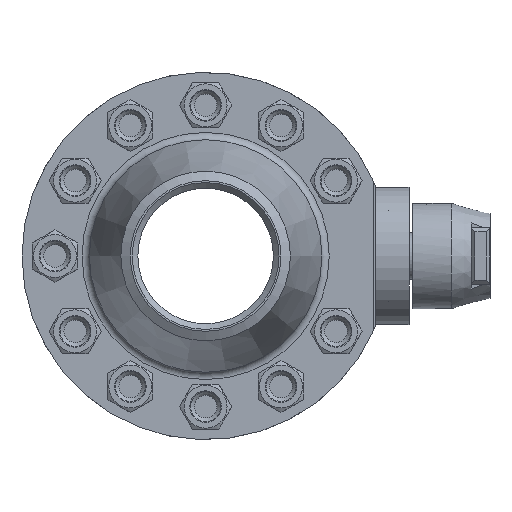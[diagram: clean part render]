
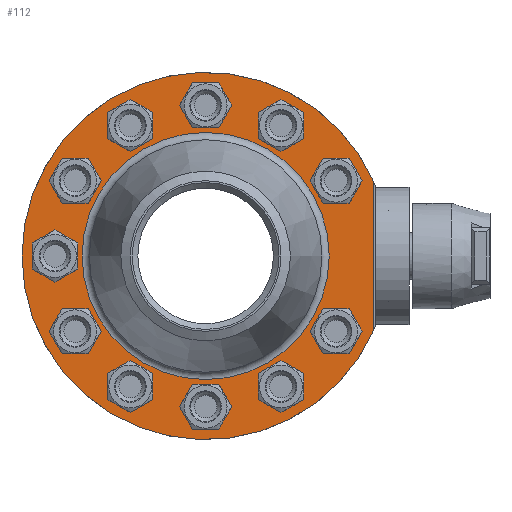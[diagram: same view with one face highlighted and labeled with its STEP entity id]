
A CAD part, left-side view. The second image highlights one B-rep face of the part: STEP entity #112.
In plain terms, the highlighted planar face has unit normal (-1, 0, 0).
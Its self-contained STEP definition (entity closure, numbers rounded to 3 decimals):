
#112=ADVANCED_FACE('',(#2488,#2490,#2492,#2494,#2496,#2498,#2500,#2502,#2504,#2506,
#2508,#2510,#2512),#2514,.T.);
#2488=FACE_BOUND('',#2489,.T.);
#2489=EDGE_LOOP('',(#6268));
#2490=FACE_BOUND('',#2491,.T.);
#2491=EDGE_LOOP('',(#6269));
#2492=FACE_BOUND('',#2493,.T.);
#2493=EDGE_LOOP('',(#6270));
#2494=FACE_BOUND('',#2495,.T.);
#2495=EDGE_LOOP('',(#6271));
#2496=FACE_BOUND('',#2497,.T.);
#2497=EDGE_LOOP('',(#6272));
#2498=FACE_BOUND('',#2499,.T.);
#2499=EDGE_LOOP('',(#6273));
#2500=FACE_BOUND('',#2501,.T.);
#2501=EDGE_LOOP('',(#6274));
#2502=FACE_BOUND('',#2503,.T.);
#2503=EDGE_LOOP('',(#6275));
#2504=FACE_BOUND('',#2505,.T.);
#2505=EDGE_LOOP('',(#6276));
#2506=FACE_BOUND('',#2507,.T.);
#2507=EDGE_LOOP('',(#6277));
#2508=FACE_BOUND('',#2509,.T.);
#2509=EDGE_LOOP('',(#6278));
#2510=FACE_BOUND('',#2511,.T.);
#2511=EDGE_LOOP('',(#6279));
#2512=FACE_OUTER_BOUND('',#2513,.T.);
#2513=EDGE_LOOP('',(#6280,#6281));
#2514=PLANE('',#2515);
#2515=AXIS2_PLACEMENT_3D('',#2516,#2517,#2518);
#2516=CARTESIAN_POINT('',(-57.5,0.,0.));
#2517=DIRECTION('',(-1.,-0.,-0.));
#2518=DIRECTION('',(0.,1.,0.));
#6268=ORIENTED_EDGE('',*,*,#9393,.F.);
#6269=ORIENTED_EDGE('',*,*,#9394,.F.);
#6270=ORIENTED_EDGE('',*,*,#9395,.F.);
#6271=ORIENTED_EDGE('',*,*,#9396,.F.);
#6272=ORIENTED_EDGE('',*,*,#9397,.F.);
#6273=ORIENTED_EDGE('',*,*,#9398,.T.);
#6274=ORIENTED_EDGE('',*,*,#9399,.F.);
#6275=ORIENTED_EDGE('',*,*,#9400,.F.);
#6276=ORIENTED_EDGE('',*,*,#9401,.F.);
#6277=ORIENTED_EDGE('',*,*,#9402,.F.);
#6278=ORIENTED_EDGE('',*,*,#9403,.F.);
#6279=ORIENTED_EDGE('',*,*,#9404,.F.);
#6280=ORIENTED_EDGE('',*,*,#9405,.T.);
#6281=ORIENTED_EDGE('',*,*,#9406,.F.);
#9393=EDGE_CURVE('',#10445,#10445,#10446,.T.);
#9394=EDGE_CURVE('',#10447,#10447,#10448,.T.);
#9395=EDGE_CURVE('',#10449,#10449,#10450,.T.);
#9396=EDGE_CURVE('',#10451,#10451,#10452,.T.);
#9397=EDGE_CURVE('',#10453,#10453,#10454,.T.);
#9398=EDGE_CURVE('',#10455,#10455,#10456,.T.);
#9399=EDGE_CURVE('',#10457,#10457,#10458,.T.);
#9400=EDGE_CURVE('',#10459,#10459,#10460,.T.);
#9401=EDGE_CURVE('',#10461,#10461,#10462,.T.);
#9402=EDGE_CURVE('',#10463,#10463,#10464,.T.);
#9403=EDGE_CURVE('',#10465,#10465,#10466,.T.);
#9404=EDGE_CURVE('',#10467,#10467,#10468,.T.);
#9405=EDGE_CURVE('',#10469,#10470,#10471,.F.);
#9406=EDGE_CURVE('',#10469,#10470,#10472,.T.);
#10445=VERTEX_POINT('',#12161);
#10446=CIRCLE('',#12162,11.4);
#10447=VERTEX_POINT('',#12166);
#10448=CIRCLE('',#12167,11.4);
#10449=VERTEX_POINT('',#12171);
#10450=CIRCLE('',#12172,11.4);
#10451=VERTEX_POINT('',#12176);
#10452=CIRCLE('',#12177,11.4);
#10453=VERTEX_POINT('',#12181);
#10454=CIRCLE('',#12182,11.4);
#10455=VERTEX_POINT('',#12186);
#10456=CIRCLE('',#12187,65.62);
#10457=VERTEX_POINT('',#12191);
#10458=CIRCLE('',#12192,11.4);
#10459=VERTEX_POINT('',#12196);
#10460=CIRCLE('',#12197,11.4);
#10461=VERTEX_POINT('',#12201);
#10462=CIRCLE('',#12202,11.4);
#10463=VERTEX_POINT('',#12206);
#10464=CIRCLE('',#12207,11.4);
#10465=VERTEX_POINT('',#12211);
#10466=CIRCLE('',#12212,11.4);
#10467=VERTEX_POINT('',#12216);
#10468=CIRCLE('',#12217,11.4);
#10469=VERTEX_POINT('',#12221);
#10470=VERTEX_POINT('',#12222);
#10471=LINE('',#12223,#12224);
#10472=CIRCLE('',#12226,97.5);
#12161=CARTESIAN_POINT('',(-57.5,-30.127,74.982));
#12162=AXIS2_PLACEMENT_3D('',#12163,#12164,#12165);
#12163=CARTESIAN_POINT('',(-57.5,-40.,69.282));
#12164=DIRECTION('',(-1.,-0.,-0.));
#12165=DIRECTION('',(0.,0.866,0.5));
#12166=CARTESIAN_POINT('',(-57.5,49.873,63.582));
#12167=AXIS2_PLACEMENT_3D('',#12168,#12169,#12170);
#12168=CARTESIAN_POINT('',(-57.5,40.,69.282));
#12169=DIRECTION('',(-1.,-0.,-0.));
#12170=DIRECTION('',(0.,0.866,-0.5));
#12171=CARTESIAN_POINT('',(-57.5,80.,-11.4));
#12172=AXIS2_PLACEMENT_3D('',#12173,#12174,#12175);
#12173=CARTESIAN_POINT('',(-57.5,80.,0.));
#12174=DIRECTION('',(-1.,-0.,-0.));
#12175=DIRECTION('',(0.,0.,-1.));
#12176=CARTESIAN_POINT('',(-57.5,30.127,-74.982));
#12177=AXIS2_PLACEMENT_3D('',#12178,#12179,#12180);
#12178=CARTESIAN_POINT('',(-57.5,40.,-69.282));
#12179=DIRECTION('',(-1.,-0.,-0.));
#12180=DIRECTION('',(0.,-0.866,-0.5));
#12181=CARTESIAN_POINT('',(-57.5,-49.873,-63.582));
#12182=AXIS2_PLACEMENT_3D('',#12183,#12184,#12185);
#12183=CARTESIAN_POINT('',(-57.5,-40.,-69.282));
#12184=DIRECTION('',(-1.,-0.,-0.));
#12185=DIRECTION('',(-0.,-0.866,0.5));
#12186=CARTESIAN_POINT('',(-57.5,65.62,0.));
#12187=AXIS2_PLACEMENT_3D('',#12188,#12189,#12190);
#12188=CARTESIAN_POINT('',(-57.5,0.,0.));
#12189=DIRECTION('',(1.,0.,0.));
#12190=DIRECTION('',(0.,1.,0.));
#12191=CARTESIAN_POINT('',(-57.5,-74.982,-30.127));
#12192=AXIS2_PLACEMENT_3D('',#12193,#12194,#12195);
#12193=CARTESIAN_POINT('',(-57.5,-69.282,-40.));
#12194=DIRECTION('',(-1.,-0.,-0.));
#12195=DIRECTION('',(-0.,-0.5,0.866));
#12196=CARTESIAN_POINT('',(-57.5,-11.4,-80.));
#12197=AXIS2_PLACEMENT_3D('',#12198,#12199,#12200);
#12198=CARTESIAN_POINT('',(-57.5,0.,-80.));
#12199=DIRECTION('',(-1.,-0.,-0.));
#12200=DIRECTION('',(0.,-1.,-0.));
#12201=CARTESIAN_POINT('',(-57.5,63.582,-49.873));
#12202=AXIS2_PLACEMENT_3D('',#12203,#12204,#12205);
#12203=CARTESIAN_POINT('',(-57.5,69.282,-40.));
#12204=DIRECTION('',(-1.,-0.,-0.));
#12205=DIRECTION('',(0.,-0.5,-0.866));
#12206=CARTESIAN_POINT('',(-57.5,74.982,30.127));
#12207=AXIS2_PLACEMENT_3D('',#12208,#12209,#12210);
#12208=CARTESIAN_POINT('',(-57.5,69.282,40.));
#12209=DIRECTION('',(-1.,-0.,-0.));
#12210=DIRECTION('',(0.,0.5,-0.866));
#12211=CARTESIAN_POINT('',(-57.5,11.4,80.));
#12212=AXIS2_PLACEMENT_3D('',#12213,#12214,#12215);
#12213=CARTESIAN_POINT('',(-57.5,0.,80.));
#12214=DIRECTION('',(-1.,-0.,-0.));
#12215=DIRECTION('',(0.,1.,0.));
#12216=CARTESIAN_POINT('',(-57.5,-63.582,49.873));
#12217=AXIS2_PLACEMENT_3D('',#12218,#12219,#12220);
#12218=CARTESIAN_POINT('',(-57.5,-69.282,40.));
#12219=DIRECTION('',(-1.,-0.,-0.));
#12220=DIRECTION('',(0.,0.5,0.866));
#12221=CARTESIAN_POINT('',(-57.5,-89.,-39.815));
#12222=CARTESIAN_POINT('',(-57.5,-89.,39.815));
#12223=CARTESIAN_POINT('',(-57.5,-89.,39.815));
#12224=VECTOR('',#12225,1.);
#12225=DIRECTION('',(0.,0.,-1.));
#12226=AXIS2_PLACEMENT_3D('',#12227,#12228,#12229);
#12227=CARTESIAN_POINT('',(-57.5,0.,0.));
#12228=DIRECTION('',(1.,0.,0.));
#12229=DIRECTION('',(0.,-0.913,-0.408));
